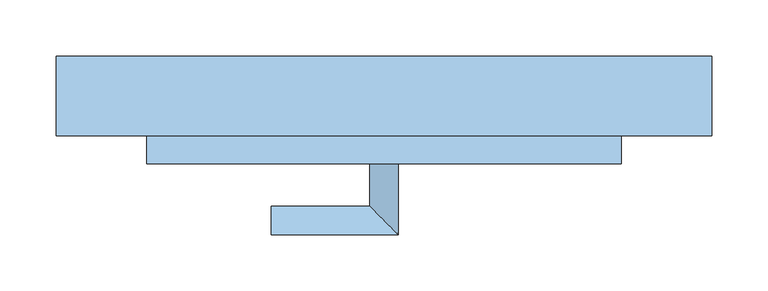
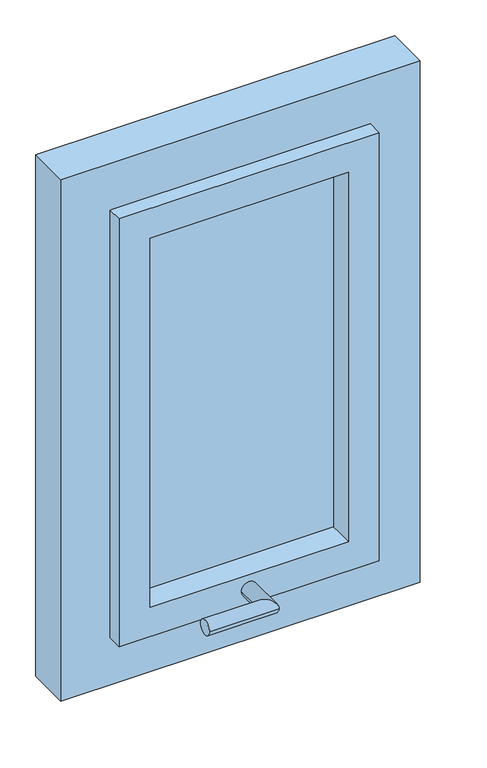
"""IFC4 building model written with IfcOpenShell, lengths in millimetres: window geometry, RFAM2316_Window-10 : Window  FIX (0,6x0,9(h))."""

from ifc_helpers import new_model, si_unit, frame, origin, place, context, project, spatial, polyline, circle_curve, ellipse_curve, outline, extrude, faceted_brep, source, transform, mapped, element, save
from ifc_brep_helpers import plane_surface, cylinder_surface, advanced_brep


def window_22ff8bc4(model_context):
    return source(origin(), model_context, "Body", "SolidModel", [
        advanced_brep(
        [(244.3584094, -139.9407167, 1005.0), (269.3584094, -139.9407167, 1005.0), (244.3584094, -177.4407167, 1005.0), (269.3584094, -202.4407167, 1005.0), (156.8584094, -177.4407167, 1005.0), (156.8584094, -202.4407167, 1005.0)],
        [
            (0, 1, circle_curve(frame((256.8584094, -139.9407167, 1005.0), z_axis=(0.0, 1.0, 0.0), x_axis=(1.0, 0.0, 0.0)), 12.5)),
            (1, 0, circle_curve(frame((256.8584094, -139.9407167, 1005.0), z_axis=(0.0, 1.0, 0.0), x_axis=(1.0, 0.0, 0.0)), 12.5)),
            (0, 2),
            (2, 3, ellipse_curve(frame((256.8584094, -189.9407167, 1005.0), z_axis=(0.7071067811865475, 0.7071067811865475, 0.0), x_axis=(-0.7071067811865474, 0.7071067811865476, 0.0)), 17.6776695, 12.5)),
            (3, 1),
            (3, 2, ellipse_curve(frame((256.8584094, -189.9407167, 1005.0), z_axis=(0.7071067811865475, 0.7071067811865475, 0.0), x_axis=(-0.7071067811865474, 0.7071067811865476, 0.0)), 17.6776695, 12.5)),
            (4, 5, circle_curve(frame((156.8584094, -189.9407167, 1005.0), z_axis=(-1.0, 0.0, 0.0), x_axis=(0.0, -1.0, 0.0)), 12.5)),
            (5, 4, circle_curve(frame((156.8584094, -189.9407167, 1005.0), z_axis=(-1.0, 0.0, 0.0), x_axis=(0.0, -1.0, 0.0)), 12.5)),
            (2, 4),
            (5, 3),
        ],
        [
            plane_surface(frame((256.8584094, -139.9407167, 1005.0), z_axis=(0.0, 1.0, 0.0), x_axis=(0.0, 0.0, 1.0))),
            cylinder_surface(frame((256.8584094, -139.9407167, 1005.0), z_axis=(0.0, 1.0, 0.0), x_axis=(1.0, 0.0, 0.0)), 12.5),
            plane_surface(frame((156.8584094, -189.9407167, 1005.0), z_axis=(-1.0, 0.0, 0.0), x_axis=(0.0, 0.0, 1.0))),
            cylinder_surface(frame((256.8584094, -189.9407167, 1005.0), z_axis=(1.0, 0.0, 0.0), x_axis=(0.0, -1.0, 0.0)), 12.5),
        ],
        [
            (0, [[1, 2]]),
            (1, [[-1, 3, 4, 5]]),
            (1, [[-2, -5, 6, -3]]),
            (2, [[7, 8]]),
            (3, [[-4, 9, -8, 10]]),
            (3, [[-6, -10, -7, -9]]),
        ],
    ),
        extrude(outline(polyline([(416.8584094, -90.9407167), (416.8584094, -98.9407167), (96.8584094, -98.9407167), (96.8584094, -90.9407167), (416.8584094, -90.9407167)])), frame((0.0, 0.0, 1030.0), z_axis=(0.0, 0.0, 1.0), x_axis=(1.0, 0.0, 0.0)), (0.0, 0.0, 1.0), 630.0),
        faceted_brep([(46.8584094, -69.9407167, 980.0), (466.8584094, -69.9407167, 980.0), (466.8584094, -114.9407167, 980.0), (466.8584094, -139.9407167, 980.0), (46.8584094, -139.9407167, 980.0), (46.8584094, -114.9407167, 980.0), (96.8584094, -69.9407167, 1030.0), (96.8584094, -139.9407167, 1030.0), (416.8584094, -139.9407167, 1030.0), (416.8584094, -69.9407167, 1030.0), (466.8584094, -69.9407167, 1710.0), (466.8584094, -114.9407167, 1710.0), (466.8584094, -139.9407167, 1710.0), (416.8584094, -139.9407167, 1660.0), (416.8584094, -69.9407167, 1660.0), (46.8584094, -69.9407167, 1710.0), (46.8584094, -114.9407167, 1710.0), (46.8584094, -139.9407167, 1710.0), (96.8584094, -139.9407167, 1660.0), (96.8584094, -69.9407167, 1660.0)], [[[0, 1, 2, 3, 4, 5]], [[6, 7, 8, 9]], [[1, 10, 11, 12, 3, 2]], [[9, 8, 13, 14]], [[10, 15, 16, 17, 12, 11]], [[14, 13, 18, 19]], [[1, 0, 15, 10], [6, 9, 14, 19]], [[15, 0, 5, 4, 17, 16]], [[4, 3, 12, 17], [8, 7, 18, 13]], [[7, 6, 19, 18]]]),
        extrude(outline(polyline([(1790.0, 546.8584094), (1790.0, -33.1415906), (900.0, -33.1415906), (900.0, 546.8584094), (1790.0, 546.8584094)]), holes=[polyline([(1710.0, 46.8584094), (1710.0, 466.8584094), (980.0, 466.8584094), (980.0, 46.8584094), (1710.0, 46.8584094)])]), frame((0.0, -114.9407167, 0.0), z_axis=(0.0, 1.0, 0.0), x_axis=(0.0, 0.0, 1.0)), (0.0, 0.0, 1.0), 70.0),
    ])


if __name__ == "__main__":
    model = new_model("IFC4")
    model_context = context("Model", 3, world=origin())
    ifc_project = project(units=[si_unit("LENGTHUNIT", "METRE", prefix="MILLI")], contexts=[model_context])
    site = spatial("IfcSite", under=ifc_project)
    building = spatial("IfcBuilding", under=site)
    placement = place(None, origin())
    window_shape = window_22ff8bc4(model_context)
    element("IfcWindow", 1, ObjectType="RFAM2316_Window-10 : Window  FIX (0,6x0,9(h))", at=placement, inside=building, context=model_context, shape_type="MappedRepresentation", body=[
        mapped(window_shape, transform((0.0, 0.0, 0.0), x_axis=(1.0, 0.0, 0.0), y_axis=(0.0, 1.0, 0.0), z_axis=(0.0, 0.0, 1.0))),
    ])
    save(model, "model.ifc")
